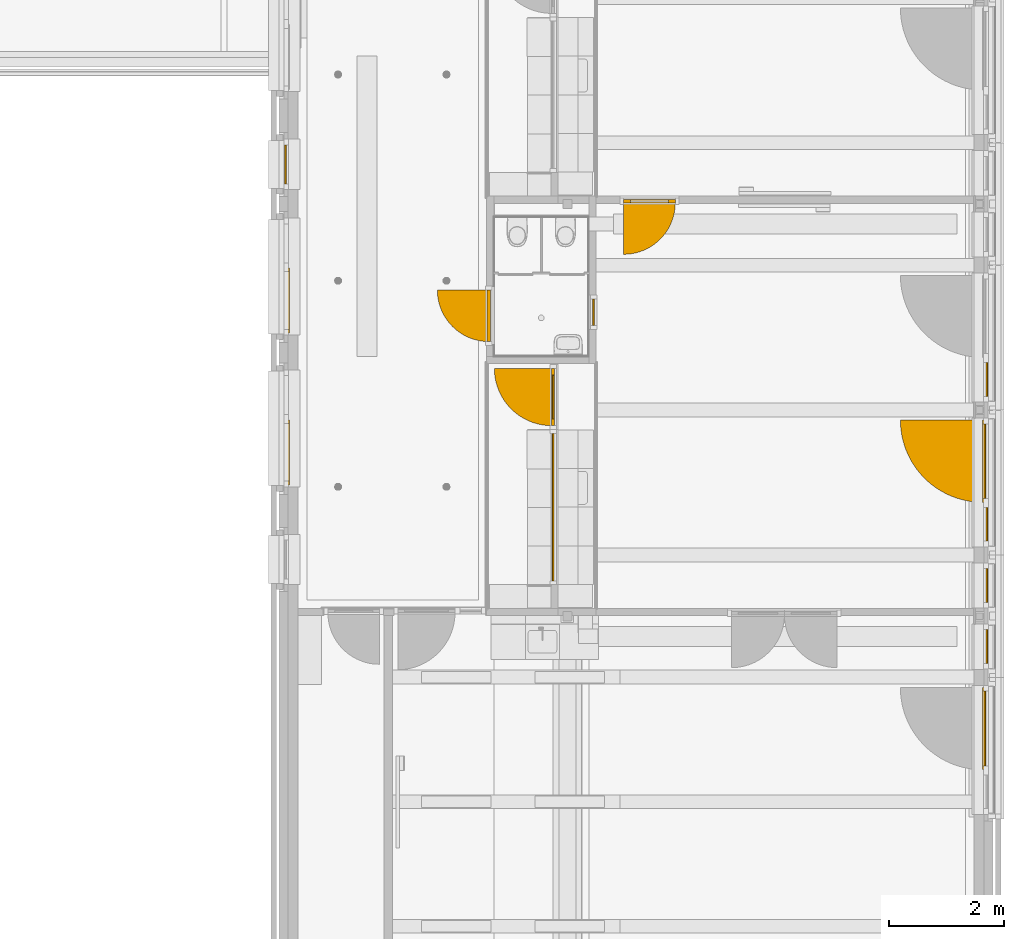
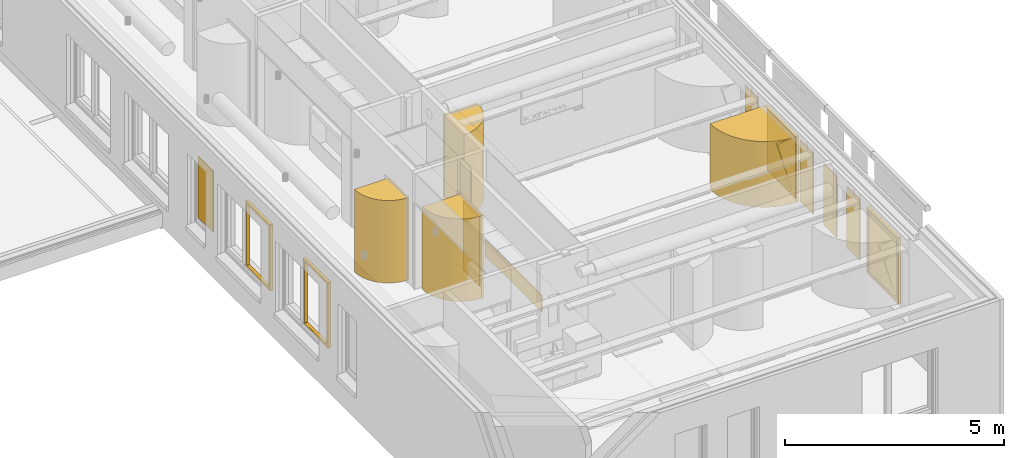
# One storey, part 63 of 128: 18 windows, 3 doors, 7 elements without a shape of their own.
"""IFC2X3 building model written with IfcOpenShell, lengths in millimetres."""

from ifc_helpers import new_model, entity, si_unit, converted_unit, derived_unit, direction, frame, frame_2d, origin, origin_2d_with_axis, place, context, subcontext, project, spatial, polyline, circle_curve, parameter, trimmed, segment, composite_curve, rectangle, circle, outline, extrude, source, transform, mapped, material, material_list, type_object, type_shapes, element, aggregate, save


model = new_model("IFC2X3")

# Units and contexts
model_context = context("Model", 3, precision=0.01, world=origin(), true_north=direction((6.123031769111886e-17, 1.0)))
body_context = subcontext(model_context, "Body", "Model", "MODEL_VIEW")
ifc_project = project(units=[si_unit("LENGTHUNIT", "METRE", prefix="MILLI"), si_unit("AREAUNIT", "SQUARE_METRE"), si_unit("VOLUMEUNIT", "CUBIC_METRE"), converted_unit("PLANEANGLEUNIT", "DEGREE", entity("IfcRatioMeasure", 0.017453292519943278), si_unit("PLANEANGLEUNIT", "RADIAN"), dimensions=[0, 0, 0, 0, 0, 0, 0]), si_unit("MASSUNIT", "GRAM", prefix="KILO"), derived_unit("MASSDENSITYUNIT", [(si_unit("MASSUNIT", "GRAM", prefix="KILO"), 1), (si_unit("LENGTHUNIT", "METRE"), -3)]), derived_unit("IONCONCENTRATIONUNIT", [(si_unit("MASSUNIT", "GRAM", prefix="KILO"), 1), (si_unit("LENGTHUNIT", "METRE"), -3)]), derived_unit("MOMENTOFINERTIAUNIT", [(si_unit("LENGTHUNIT", "METRE"), 4)]), si_unit("TIMEUNIT", "SECOND"), si_unit("FREQUENCYUNIT", "HERTZ"), si_unit("THERMODYNAMICTEMPERATUREUNIT", "DEGREE_CELSIUS"), derived_unit("THERMALTRANSMITTANCEUNIT", [(si_unit("MASSUNIT", "GRAM", prefix="KILO"), 1), (si_unit("THERMODYNAMICTEMPERATUREUNIT", "KELVIN"), -1), (si_unit("TIMEUNIT", "SECOND"), -3)]), derived_unit("THERMALCONDUCTANCEUNIT", [(si_unit("MASSUNIT", "GRAM", prefix="KILO"), 1), (si_unit("THERMODYNAMICTEMPERATUREUNIT", "KELVIN"), -1), (si_unit("TIMEUNIT", "SECOND"), -3), (si_unit("LENGTHUNIT", "METRE"), 1)]), derived_unit("VOLUMETRICFLOWRATEUNIT", [(si_unit("LENGTHUNIT", "METRE"), 3), (si_unit("TIMEUNIT", "SECOND"), -1)]), derived_unit("MASSFLOWRATEUNIT", [(si_unit("MASSUNIT", "GRAM", prefix="KILO"), 1), (si_unit("TIMEUNIT", "SECOND"), -1)]), derived_unit("ROTATIONALFREQUENCYUNIT", [(si_unit("TIMEUNIT", "SECOND"), -1)]), si_unit("ELECTRICCURRENTUNIT", "AMPERE"), si_unit("ELECTRICVOLTAGEUNIT", "VOLT"), si_unit("POWERUNIT", "WATT"), si_unit("FORCEUNIT", "NEWTON", prefix="KILO"), si_unit("ILLUMINANCEUNIT", "LUX"), si_unit("LUMINOUSFLUXUNIT", "LUMEN"), si_unit("LUMINOUSINTENSITYUNIT", "CANDELA"), derived_unit("USERDEFINED", [(si_unit("MASSUNIT", "GRAM", prefix="KILO"), -1), (si_unit("LENGTHUNIT", "METRE"), -2), (si_unit("TIMEUNIT", "SECOND"), 3), (si_unit("LUMINOUSFLUXUNIT", "LUMEN"), 1)]), derived_unit("USERDEFINED", [(si_unit("MASSUNIT", "GRAM", prefix="KILO"), 1), (si_unit("TIMEUNIT", "SECOND"), -3), (si_unit("LENGTHUNIT", "METRE"), 3), (si_unit("ELECTRICCURRENTUNIT", "AMPERE"), -2)]), derived_unit("SOUNDPOWERUNIT", [(si_unit("MASSUNIT", "GRAM", prefix="KILO"), 1), (si_unit("TIMEUNIT", "SECOND"), -3), (si_unit("LENGTHUNIT", "METRE"), 2)]), derived_unit("SOUNDPRESSUREUNIT", [(si_unit("MASSUNIT", "GRAM", prefix="KILO"), 1), (si_unit("LENGTHUNIT", "METRE"), -1), (si_unit("TIMEUNIT", "SECOND"), -2)]), derived_unit("LINEARVELOCITYUNIT", [(si_unit("LENGTHUNIT", "METRE"), 1), (si_unit("TIMEUNIT", "SECOND"), -1)]), si_unit("PRESSUREUNIT", "PASCAL"), derived_unit("USERDEFINED", [(si_unit("MASSUNIT", "GRAM", prefix="KILO"), 1), (si_unit("LENGTHUNIT", "METRE"), -2), (si_unit("TIMEUNIT", "SECOND"), -2)]), derived_unit("LINEARFORCEUNIT", [(si_unit("MASSUNIT", "GRAM", prefix="KILO"), 1), (si_unit("TIMEUNIT", "SECOND"), -2)]), derived_unit("PLANARFORCEUNIT", [(si_unit("MASSUNIT", "GRAM", prefix="KILO"), 1), (si_unit("LENGTHUNIT", "METRE"), -1), (si_unit("TIMEUNIT", "SECOND"), -2)]), derived_unit("SPECIFICHEATCAPACITYUNIT", [(si_unit("THERMODYNAMICTEMPERATUREUNIT", "KELVIN"), -1), (si_unit("LENGTHUNIT", "METRE"), 2), (si_unit("TIMEUNIT", "SECOND"), -2)]), derived_unit("HEATINGVALUEUNIT", [(si_unit("LENGTHUNIT", "METRE"), 2), (si_unit("TIMEUNIT", "SECOND"), -2)]), derived_unit("VAPORPERMEABILITYUNIT", [(si_unit("LENGTHUNIT", "METRE"), -1), (si_unit("TIMEUNIT", "SECOND"), 1)]), derived_unit("DYNAMICVISCOSITYUNIT", [(si_unit("MASSUNIT", "GRAM", prefix="KILO"), 1), (si_unit("TIMEUNIT", "SECOND"), -1), (si_unit("LENGTHUNIT", "METRE"), -1)]), derived_unit("THERMALEXPANSIONCOEFFICIENTUNIT", [(si_unit("THERMODYNAMICTEMPERATUREUNIT", "KELVIN"), -1)]), derived_unit("MODULUSOFELASTICITYUNIT", [(si_unit("MASSUNIT", "GRAM", prefix="KILO"), 1), (si_unit("LENGTHUNIT", "METRE"), -1), (si_unit("TIMEUNIT", "SECOND"), -2)]), derived_unit("ISOTHERMALMOISTURECAPACITYUNIT", [(si_unit("LENGTHUNIT", "METRE"), 3), (si_unit("MASSUNIT", "GRAM", prefix="KILO"), -1)]), derived_unit("MOISTUREDIFFUSIVITYUNIT", [(si_unit("TIMEUNIT", "SECOND"), -1), (si_unit("LENGTHUNIT", "METRE"), 2)])], contexts=[model_context])

# Site, building, storey
site_placement = place(None, frame((0.0, 300.0, 0.0)))
site = spatial("IfcSite", under=ifc_project, at=site_placement, Name="<Kadastrale nummers>", CompositionType="ELEMENT")
building_placement = place(site_placement, origin())
building = spatial("IfcBuilding", under=site, at=building_placement, CompositionType="ELEMENT")
storey_placement = place(building_placement, frame((0.0, 0.0, 3560.0000331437)))
storey = spatial("IfcBuildingStorey", under=building, at=storey_placement, Name="01 eerste verdieping", CompositionType="ELEMENT", Elevation=3560.0000331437)

# Curtain wall, door
curtain_wall_type_1 = type_object("IfcCurtainWallType", Name="Curtain Wall:Merk H01", PredefinedType="NOTDEFINED")
curtain_wall_1_placement = place(storey_placement, frame((0.0, 0.0, -3560.0000331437)))
curtain_wall_1 = element("IfcCurtainWall", 1, at=curtain_wall_1_placement, inside=storey, type_object=curtain_wall_type_1, Name="Curtain Wall:Merk H01", ObjectType="Curtain Wall:Merk H01")
ifc_material_1 = material(Name="ISR_Kunststof_wit")
ifc_material_2 = material(Name="ISR_Mass_Glazing")
ifc_material_list = material_list([ifc_material_1, ifc_material_2])
door_style_1 = type_object("IfcDoorStyle", Name="31_DO_Rondgat_deur:dichte_deur", ConstructionType="NOTDEFINED", OperationType="NOTDEFINED", ParameterTakesPrecedence=False, Sizeable=False, material=ifc_material_list)
shared_shape_1 = source(origin(), body_context, "Body", "SweptSolid", [
    extrude(outline(polyline([(-450.0, -1151.5000000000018), (450.0, -1151.5000000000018), (450.0, 1151.4999999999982), (-450.0, 1151.5000000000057), (-450.0, -1151.5000000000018)]), holes=[composite_curve([segment(trimmed(circle_curve(frame_2d((0.0, -448.5000000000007), x_axis=(1.0, 0.0)), 200.0), [parameter(179.99999999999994)], [parameter(359.9999999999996)], True, "PARAMETER"), False, "CONTINUOUS"), segment(trimmed(circle_curve(frame_2d((0.0, -448.5000000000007), x_axis=(1.0, 0.0)), 200.0), [parameter(4.0711099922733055e-13)], [parameter(179.99999999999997)], True, "PARAMETER"), False, "CONTINUOUS")], self_intersect=False)]), frame((0.0, 30.0, 1151.5000000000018), z_axis=(0.0, 1.0, 0.0), x_axis=(1.0, 0.0, 0.0)), (0.0, 0.0, 1.0), 26.999999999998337),
    extrude(outline(polyline([(-450.0, -1151.500000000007), (450.0, -1151.500000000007), (450.0, 1151.499999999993), (-450.0, 1151.5000000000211), (-450.0, -1151.500000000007)]), holes=[composite_curve([segment(trimmed(circle_curve(frame_2d((0.0, -448.49999999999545), x_axis=(1.0, 0.0)), 200.0), [parameter(179.99999999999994)], [parameter(359.9999999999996)], True, "PARAMETER"), False, "CONTINUOUS"), segment(trimmed(circle_curve(frame_2d((0.0, -448.49999999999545), x_axis=(1.0, 0.0)), 200.0), [parameter(4.0711099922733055e-13)], [parameter(179.99999999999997)], True, "PARAMETER"), False, "CONTINUOUS")], self_intersect=False)]), frame((0.0, 57.0, 1151.500000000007), z_axis=(0.0, 1.0, 0.0), x_axis=(1.0, 0.0, 0.0)), (0.0, 0.0, 1.0), 26.999999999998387),
    extrude(circle(Radius=200.0, at=frame_2d((0.0, -2.707167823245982e-13), x_axis=(1.0, 0.0))), frame((0.0, 41.319307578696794, 1600.0), z_axis=(0.0, 1.0, 0.0), x_axis=(-1.0, 0.0, 0.0)), (0.0, 0.0, 1.0), 25.1297239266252),
])
type_shapes(door_style_1, [shared_shape_1])
door_1_placement = place(curtain_wall_1_placement, frame((40084.0, 14545.997246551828, 3670.00003501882), z_axis=(0.0, 0.0, 1.0), x_axis=(0.0, 1.0, 0.0)))
door_1 = element("IfcDoor", 2, at=door_1_placement, type_object=door_style_1, material=ifc_material_list, Name="31_DO_Rondgat_deur:dichte_deur", ObjectType="31_DO_Rondgat_deur:dichte_deur", OverallHeight=2303.000000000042, OverallWidth=900.0000000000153, context=body_context, shape_type="MappedRepresentation", body=[
    mapped(shared_shape_1, transform((0.0, 0.0, 0.0), scale=1.0)),
])
aggregate(curtain_wall_1, [door_1])

# Windows
ifc_material_3 = material(Name="Clearance Zones")
window_style_1 = type_object("IfcWindowStyle", Name="BU deur links:BU deur links", ConstructionType="NOTDEFINED", OperationType="NOTDEFINED", ParameterTakesPrecedence=False, Sizeable=False, material=ifc_material_3)
shared_shape_2 = source(origin(), body_context, "Body", "SweptSolid", [
    extrude(outline(composite_curve([segment(polyline([(-600.0, -300.0), (300.0, -300.0)]), True, "CONTINUOUS"), segment(polyline([(300.0, -300.0), (300.0, 600.0)]), True, "CONTINUOUS"), segment(trimmed(circle_curve(frame_2d((300.0, -300.0), x_axis=(1.0, 0.0)), 900.0000000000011), [parameter(90.00000000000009)], [parameter(179.99999999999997)], True, "PARAMETER"), True, "CONTINUOUS")], self_intersect=False)), frame((-150.0, -327.0, -20.0), z_axis=(0.0, 0.0, 1.0), x_axis=(-1.0, 0.0, 0.0)), (0.0, 0.0, 1.0), 2303.0000000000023),
])
type_shapes(window_style_1, [shared_shape_2])
window_1_placement = place(storey_placement, frame((40056.75000000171, 14545.997246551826, 130.00000187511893), z_axis=(0.0, 0.0, 1.0), x_axis=(0.0, -1.0, 0.0)))
element("IfcWindow", 3, at=window_1_placement, inside=storey, type_object=window_style_1, material=ifc_material_3, Name="BU deur links:BU deur links", ObjectType="BU deur links:BU deur links", OverallHeight=1183.999999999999, OverallWidth=900.0000000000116, context=body_context, shape_type="MappedRepresentation", body=[
    mapped(shared_shape_2, transform((0.0, 0.0, 0.0), scale=1.0)),
])
window_2_placement = place(storey_placement, frame((42834.50000000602, 16546.998623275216, 130.0000018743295)))
element("IfcWindow", 4, at=window_2_placement, inside=storey, type_object=window_style_1, material=ifc_material_3, Name="BU deur links:BU deur links", ObjectType="BU deur links:BU deur links", OverallHeight=1183.999999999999, OverallWidth=900.0000000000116, context=body_context, shape_type="MappedRepresentation", body=[
    mapped(shared_shape_2, transform((0.0, 0.0, 0.0), scale=1.0)),
])
ifc_material_4 = material(Name="glas_enscape")
window_style_2 = type_object("IfcWindowStyle", Name="WI_subvak1:glas 4", ConstructionType="NOTDEFINED", OperationType="NOTDEFINED", ParameterTakesPrecedence=False, Sizeable=False, material=ifc_material_4)
shared_shape_3 = source(origin(), body_context, "Body", "SweptSolid", [
    extrude(rectangle(XDim=24.00000000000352, YDim=2576.000000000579, at=origin_2d_with_axis()), frame((0.0, 0.0, 0.0), z_axis=(0.0, 0.0, 1.0), x_axis=(0.0, -1.0, 0.0)), (0.0, 0.0, 1.0), 465.9999999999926),
])
type_shapes(window_style_2, [shared_shape_3])
window_3_placement = place(storey_placement, frame((41152.0, 11205.997246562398, 1357.0), z_axis=(0.0, 0.0, 1.0), x_axis=(0.0, 1.0, 0.0)))
element("IfcWindow", 5, at=window_3_placement, inside=storey, type_object=window_style_2, material=ifc_material_4, Name="WI_subvak1:glas 4", ObjectType="WI_subvak1:glas 4", OverallHeight=609.928649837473, OverallWidth=2576.0000000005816, context=body_context, shape_type="MappedRepresentation", body=[
    mapped(shared_shape_3, transform((0.0, 0.0, 0.0), scale=1.0)),
])

# Curtain wall, door
curtain_wall_type_2 = type_object("IfcCurtainWallType", Name="Curtain Wall:Merk H09", PredefinedType="NOTDEFINED")
curtain_wall_2_placement = place(storey_placement, frame((0.0, 0.0, -3560.0000331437)))
curtain_wall_2 = element("IfcCurtainWall", 6, at=curtain_wall_2_placement, inside=storey, type_object=curtain_wall_type_2, Name="Curtain Wall:Merk H09", ObjectType="Curtain Wall:Merk H09")
ifc_material_5 = material(Name="ISR_HPL Kleur hout")
door_style_2 = type_object("IfcDoorStyle", Name="31_DO_deur_met_stapeldorpel:deur_met_stapeldorpel", ConstructionType="NOTDEFINED", OperationType="NOTDEFINED", ParameterTakesPrecedence=False, Sizeable=False, material=ifc_material_5)
shared_shape_4 = source(origin(), body_context, "Body", "SweptSolid", [
    extrude(outline(polyline([(-500.0, -1151.4999999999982), (500.0, -1151.4999999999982), (500.0, 1151.4999999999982), (-500.0, 1151.4999999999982), (-500.0, -1151.4999999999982)]), holes=[polyline([(-380.0, 911.499999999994), (380.0, 911.4999999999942), (380.0, -1031.4999999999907), (-380.0, -1031.499999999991), (-380.0, 911.499999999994)])]), frame((0.0, 57.0, 1151.5000000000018), z_axis=(0.0, 1.0, 0.0), x_axis=(1.0, 0.0, 0.0)), (0.0, 0.0, 1.0), 26.999999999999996),
    extrude(outline(polyline([(-500.0, -1151.4999999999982), (500.0, -1151.4999999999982), (500.0, 1151.4999999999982), (-500.0, 1151.4999999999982), (-500.0, -1151.4999999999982)]), holes=[polyline([(-380.0, 911.4999999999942), (380.0, 911.4999999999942), (380.0, -1031.4999999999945), (-380.0, -1031.4999999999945), (-380.0, 911.4999999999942)])]), frame((0.0, 30.0, 1151.5000000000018), z_axis=(0.0, 1.0, 0.0), x_axis=(1.0, 0.0, 0.0)), (0.0, 0.0, 1.0), 26.99999999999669),
])
type_shapes(door_style_2, [shared_shape_4])
door_2_placement = place(curtain_wall_2_placement, frame((41209.0, 13127.997246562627, 3670.00003501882), z_axis=(0.0, 0.0, 1.0), x_axis=(0.0, 1.0, 0.0)))
door_2 = element("IfcDoor", 7, at=door_2_placement, type_object=door_style_2, material=ifc_material_5, Name="31_DO_deur_met_stapeldorpel:deur_met_stapeldorpel", ObjectType="31_DO_deur_met_stapeldorpel:deur_met_stapeldorpel", OverallHeight=2303.0000000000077, OverallWidth=1000.0000000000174, context=body_context, shape_type="MappedRepresentation", body=[
    mapped(shared_shape_4, transform((0.0, 0.0, 0.0), scale=1.0)),
])
aggregate(curtain_wall_2, [door_2])

# Window
window_style_3 = type_object("IfcWindowStyle", Name="WI_subvak1:glas 4", ConstructionType="NOTDEFINED", OperationType="NOTDEFINED", ParameterTakesPrecedence=False, Sizeable=False, material=ifc_material_4)
shared_shape_5 = source(origin(), body_context, "Body", "SweptSolid", [
    extrude(rectangle(XDim=466.0000000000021, YDim=24.000000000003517, at=origin_2d_with_axis()), origin(), (0.0, 0.0, 1.0), 1055.9999999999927),
])
type_shapes(window_style_3, [shared_shape_5])
window_4_placement = place(storey_placement, frame((41858.0, 14609.99862327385, 1357.0), z_axis=(0.0, 0.0, 1.0), x_axis=(0.0, 1.0, 0.0)))
element("IfcWindow", 8, at=window_4_placement, inside=storey, type_object=window_style_3, material=ifc_material_4, Name="WI_subvak1:glas 4", ObjectType="WI_subvak1:glas 4", OverallHeight=609.9286498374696, OverallWidth=466.00000000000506, context=body_context, shape_type="MappedRepresentation", body=[
    mapped(shared_shape_5, transform((0.0, 0.0, 0.0), scale=1.0)),
])

# Curtain wall, door
curtain_wall_type_3 = type_object("IfcCurtainWallType", Name="Curtain Wall:Merk H16", PredefinedType="NOTDEFINED")
curtain_wall_3_placement = place(storey_placement, frame((0.0, 0.0, -3560.0000331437)))
curtain_wall_3 = element("IfcCurtainWall", 9, at=curtain_wall_3_placement, inside=storey, type_object=curtain_wall_type_3, Name="Curtain Wall:Merk H16", ObjectType="Curtain Wall:Merk H16")
ifc_material_6 = material(Name="HPL F7853 ocean gray")
door_style_3 = type_object("IfcDoorStyle", Name="31_DO_deur_met_stapeldorpel:deur_met_stapeldorpel", ConstructionType="NOTDEFINED", OperationType="NOTDEFINED", ParameterTakesPrecedence=False, Sizeable=False, material=ifc_material_6)
shared_shape_6 = source(origin(), body_context, "Body", "SweptSolid", [
    extrude(outline(polyline([(-450.0, -1151.4999999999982), (450.0, -1151.4999999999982), (450.0, 1151.4999999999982), (-450.0, 1151.4999999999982), (-450.0, -1151.4999999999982)]), holes=[polyline([(-330.0, 911.499999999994), (330.0, 911.4999999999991), (330.0, -1031.4999999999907), (-330.0, -1031.499999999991), (-330.0, 911.499999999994)])]), frame((0.0, 57.0, 1151.5000000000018), z_axis=(0.0, 1.0, 0.0), x_axis=(1.0, 0.0, 0.0)), (0.0, 0.0, 1.0), 26.999999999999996),
    extrude(outline(polyline([(-450.0, -1151.4999999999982), (450.0, -1151.4999999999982), (450.0, 1151.4999999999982), (-450.0, 1151.4999999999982), (-450.0, -1151.4999999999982)]), holes=[polyline([(-330.0, 911.4999999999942), (330.0, 911.4999999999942), (330.0, -1031.4999999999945), (-330.0, -1031.4999999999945), (-330.0, 911.4999999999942)])]), frame((0.0, 30.0, 1151.5000000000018), z_axis=(0.0, 1.0, 0.0), x_axis=(1.0, 0.0, 0.0)), (0.0, 0.0, 1.0), 26.99999999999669),
])
type_shapes(door_style_3, [shared_shape_6])
door_3_placement = place(curtain_wall_3_placement, frame((42834.50000000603, 16603.998623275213, 3670.0000350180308), z_axis=(0.0, 0.0, 1.0), x_axis=(-1.0, 0.0, 0.0)))
door_3 = element("IfcDoor", 10, at=door_3_placement, type_object=door_style_3, material=ifc_material_6, Name="31_DO_deur_met_stapeldorpel:deur_met_stapeldorpel", ObjectType="31_DO_deur_met_stapeldorpel:deur_met_stapeldorpel", OverallHeight=2303.0000000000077, OverallWidth=900.0000000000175, context=body_context, shape_type="MappedRepresentation", body=[
    mapped(shared_shape_6, transform((0.0, 0.0, 0.0), scale=1.0)),
])
aggregate(curtain_wall_3, [door_3])

# Windows
window_style_4 = type_object("IfcWindowStyle", Name="WI_subvak1:glas 2", ConstructionType="NOTDEFINED", OperationType="NOTDEFINED", ParameterTakesPrecedence=False, Sizeable=False, material=ifc_material_4)
shared_shape_7 = source(origin(), body_context, "Body", "SweptSolid", [
    extrude(rectangle(XDim=24.000000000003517, YDim=759.9999999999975, at=frame_2d((0.0, -2.842170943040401e-14), x_axis=(1.0, 0.0))), frame((0.0, 0.0, 0.0), z_axis=(0.0, 0.0, 1.0), x_axis=(0.0, -1.0, 0.0)), (0.0, 0.0, 1.0), 1942.999999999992),
])
type_shapes(window_style_4, [shared_shape_7])
window_5_placement = place(storey_placement, frame((41152.0, 13127.997246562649, 350.00000187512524), z_axis=(0.0, 0.0, 1.0), x_axis=(0.0, 1.0, 0.0)))
element("IfcWindow", 11, at=window_5_placement, inside=storey, type_object=window_style_4, material=ifc_material_4, Name="WI_subvak1:glas 2", ObjectType="WI_subvak1:glas 2", OverallHeight=609.9286498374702, OverallWidth=760.0000000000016, context=body_context, shape_type="MappedRepresentation", body=[
    mapped(shared_shape_7, transform((0.0, 0.0, 0.0), scale=1.0)),
])
window_style_5 = type_object("IfcWindowStyle", Name="BU deur links:BU deur links", ConstructionType="NOTDEFINED", OperationType="NOTDEFINED", ParameterTakesPrecedence=False, Sizeable=False, material=ifc_material_3)
shared_shape_8 = source(origin(), body_context, "Body", "SweptSolid", [
    extrude(outline(composite_curve([segment(polyline([(-666.6666666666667, -333.33333333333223), (333.3333333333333, -333.33333333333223)]), True, "CONTINUOUS"), segment(polyline([(333.3333333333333, -333.33333333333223), (333.33333333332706, 666.6666666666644)]), True, "CONTINUOUS"), segment(trimmed(circle_curve(frame_2d((333.3333333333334, -333.33333333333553), x_axis=(1.0, 0.0)), 1000.0000000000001), [parameter(90.00000000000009)], [parameter(179.99999999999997)], True, "PARAMETER"), True, "CONTINUOUS")], self_intersect=False)), frame((-166.66666666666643, -360.3333333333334, -20.0), z_axis=(0.0, 0.0, 1.0), x_axis=(-1.0, 0.0, 0.0)), (0.0, 0.0, 1.0), 2303.0000000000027),
])
type_shapes(window_style_5, [shared_shape_8])
window_6_placement = place(storey_placement, frame((41152.0, 13127.997246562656, 130.00000187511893), z_axis=(0.0, 0.0, 1.0), x_axis=(0.0, -1.0, 0.0)))
element("IfcWindow", 12, at=window_6_placement, inside=storey, type_object=window_style_5, material=ifc_material_3, Name="BU deur links:BU deur links", ObjectType="BU deur links:BU deur links", OverallHeight=1284.0000000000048, OverallWidth=1000.0000000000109, context=body_context, shape_type="MappedRepresentation", body=[
    mapped(shared_shape_8, transform((0.0, 0.0, 0.0), scale=1.0)),
])

# Curtain wall, window
curtain_wall_type_4 = type_object("IfcCurtainWallType", Name="Curtain Wall:K_22", PredefinedType="NOTDEFINED")
curtain_wall_4_placement = place(storey_placement, frame((0.0, 0.0, -3560.0000331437)))
curtain_wall_4 = element("IfcCurtainWall", 13, at=curtain_wall_4_placement, inside=storey, type_object=curtain_wall_type_4, Name="Curtain Wall:K_22", ObjectType="Curtain Wall:K_22")
ifc_material_7 = material(Name="ISR_Aluminium")
window_style_6 = type_object("IfcWindowStyle", Name="31_WI_raam_1:GEALAN KUBUS RAAM", ConstructionType="NOTDEFINED", OperationType="NOTDEFINED", ParameterTakesPrecedence=False, Sizeable=False, material=ifc_material_7)
shared_shape_9 = source(origin(), body_context, "Body", "SweptSolid", [
    extrude(outline(polyline([(-717.0, -918.9999824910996), (717.0, -918.9999824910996), (717.0, 918.9999824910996), (-717.0, 918.9999824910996), (-717.0, -918.9999824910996)]), holes=[polyline([(-653.0, 854.9999824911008), (653.0, 854.9999824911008), (653.0, -854.9999824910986), (-653.0, -854.9999824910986), (-653.0, 854.9999824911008)])]), frame((0.0, 63.0, 854.9999824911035), z_axis=(0.0, -1.0, 0.0), x_axis=(-1.0, 0.0, 0.0)), (0.0, 0.0, 1.0), 40.50000000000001),
    extrude(outline(polyline([(-717.0, -918.9999824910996), (717.0, -918.9999824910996), (717.0, 918.9999824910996), (-717.0, 918.9999824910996), (-717.0, -918.9999824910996)]), holes=[polyline([(-653.0, 854.9999824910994), (653.0, 854.9999824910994), (653.0, -854.9999824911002), (-653.0, -854.9999824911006), (-653.0, 854.9999824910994)])]), frame((0.0, 22.499999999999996, 854.9999824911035), z_axis=(0.0, -1.0, 0.0), x_axis=(-1.0, 0.0, 0.0)), (0.0, 0.0, 1.0), 40.5),
])
type_shapes(window_style_6, [shared_shape_9])
window_7_placement = place(curtain_wall_4_placement, frame((48668.0, 12007.0, 4580.0000331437), z_axis=(0.0, 0.0, 1.0), x_axis=(0.0, -1.0, 0.0)))
window_7 = element("IfcWindow", 14, at=window_7_placement, type_object=window_style_6, material=ifc_material_7, Name="31_WI_raam_1:GEALAN KUBUS RAAM", ObjectType="31_WI_raam_1:GEALAN KUBUS RAAM", OverallHeight=1853.9999649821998, OverallWidth=1434.0000000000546, context=body_context, shape_type="MappedRepresentation", body=[
    mapped(shared_shape_9, transform((0.0, 0.0, 0.0), scale=1.0)),
])
aggregate(curtain_wall_4, [window_7])

curtain_wall_5_placement = place(storey_placement, frame((0.0, 0.0, -3560.0000331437)))
curtain_wall_5 = element("IfcCurtainWall", 15, at=curtain_wall_5_placement, inside=storey, type_object=curtain_wall_type_4, Name="Curtain Wall:K_22", ObjectType="Curtain Wall:K_22")
window_8_placement = place(curtain_wall_5_placement, frame((48668.0, 7337.0, 4580.0000331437), z_axis=(0.0, 0.0, 1.0), x_axis=(0.0, -1.0, 0.0)))
window_8 = element("IfcWindow", 16, at=window_8_placement, type_object=window_style_6, material=ifc_material_7, Name="31_WI_raam_1:GEALAN KUBUS RAAM", ObjectType="31_WI_raam_1:GEALAN KUBUS RAAM", OverallHeight=1853.9999649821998, OverallWidth=1434.0000000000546, context=body_context, shape_type="MappedRepresentation", body=[
    mapped(shared_shape_9, transform((0.0, 0.0, 0.0), scale=1.0)),
])
aggregate(curtain_wall_5, [window_8])

curtain_wall_type_5 = type_object("IfcCurtainWallType", Name="Curtain Wall:K_24", PredefinedType="NOTDEFINED")
curtain_wall_6_placement = place(storey_placement, frame((0.0, 0.0, -3560.0000331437)))
curtain_wall_6 = element("IfcCurtainWall", 17, at=curtain_wall_6_placement, inside=storey, type_object=curtain_wall_type_5, Name="Curtain Wall:K_24", ObjectType="Curtain Wall:K_24")
window_style_7 = type_object("IfcWindowStyle", Name="31_WI_raam_1:GEALAN KUBUS RAAM", ConstructionType="NOTDEFINED", OperationType="NOTDEFINED", ParameterTakesPrecedence=False, Sizeable=False, material=ifc_material_7)
shared_shape_10 = source(origin(), body_context, "Body", "SweptSolid", [
    extrude(outline(polyline([(-567.0, -919.0), (567.0, -919.0), (567.0, 919.0), (-567.0, 919.0), (-567.0, -919.0)]), holes=[polyline([(-503.0, 855.0), (503.0, 855.0), (503.0, -855.0), (-503.0, -855.0), (-503.0, 855.0)])]), frame((0.0, 63.0, 855.0), z_axis=(0.0, -1.0, 0.0), x_axis=(-1.0, 0.0, 0.0)), (0.0, 0.0, 1.0), 40.50000000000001),
    extrude(outline(polyline([(-567.0, -919.0), (567.0, -919.0), (567.0, 919.0), (-567.0, 919.0), (-567.0, -919.0)]), holes=[polyline([(-503.0, 855.0), (503.0, 855.0), (503.0, -855.0), (-503.0, -855.0), (-503.0, 855.0)])]), frame((0.0, 22.499999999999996, 855.0), z_axis=(0.0, -1.0, 0.0), x_axis=(-1.0, 0.0, 0.0)), (0.0, 0.0, 1.0), 40.5),
])
type_shapes(window_style_7, [shared_shape_10])
window_9_placement = place(curtain_wall_6_placement, frame((36531.998623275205, 12163.0, 4580.0000331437), z_axis=(0.0, 0.0, 1.0), x_axis=(0.0, 1.0, 0.0)))
window_9 = element("IfcWindow", 18, at=window_9_placement, type_object=window_style_7, material=ifc_material_7, Name="31_WI_raam_1:GEALAN KUBUS RAAM", ObjectType="31_WI_raam_1:GEALAN KUBUS RAAM", OverallHeight=1854.0000000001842, OverallWidth=1134.0000000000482, context=body_context, shape_type="MappedRepresentation", body=[
    mapped(shared_shape_10, transform((0.0, 0.0, 0.0), scale=1.0)),
])
aggregate(curtain_wall_6, [window_9])

curtain_wall_7_placement = place(storey_placement, frame((0.0, 0.0, -3560.0000331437)))
curtain_wall_7 = element("IfcCurtainWall", 19, at=curtain_wall_7_placement, inside=storey, type_object=curtain_wall_type_5, Name="Curtain Wall:K_24", ObjectType="Curtain Wall:K_24")
window_10_placement = place(curtain_wall_7_placement, frame((36531.99862327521, 14813.0, 4580.0000331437), z_axis=(0.0, 0.0, 1.0), x_axis=(0.0, 1.0, 0.0)))
window_10 = element("IfcWindow", 20, at=window_10_placement, type_object=window_style_7, material=ifc_material_7, Name="31_WI_raam_1:GEALAN KUBUS RAAM", ObjectType="31_WI_raam_1:GEALAN KUBUS RAAM", OverallHeight=1854.0000000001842, OverallWidth=1134.0000000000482, context=body_context, shape_type="MappedRepresentation", body=[
    mapped(shared_shape_10, transform((0.0, 0.0, 0.0), scale=1.0)),
])
aggregate(curtain_wall_7, [window_10])

# Windows
window_style_8 = type_object("IfcWindowStyle", Name="WI_subvak1:glas 4", ConstructionType="NOTDEFINED", OperationType="NOTDEFINED", ParameterTakesPrecedence=False, Sizeable=False, material=ifc_material_4)
shared_shape_11 = source(origin(), body_context, "Body", "SweptSolid", [
    extrude(rectangle(XDim=680.000000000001, YDim=24.00000000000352, at=origin_2d_with_axis()), origin(), (0.0, 0.0, 1.0), 1710.0000000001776),
])
type_shapes(window_style_8, [shared_shape_11])
window_11_placement = place(storey_placement, frame((36475.0, 17190.0, 1020.0), z_axis=(0.0, 0.0, 1.0), x_axis=(0.0, -1.0, 0.0)))
element("IfcWindow", 21, at=window_11_placement, inside=storey, type_object=window_style_8, material=ifc_material_4, Name="WI_subvak1:glas 4", ObjectType="WI_subvak1:glas 4", OverallHeight=609.9286498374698, OverallWidth=680.0000000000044, context=body_context, shape_type="MappedRepresentation", body=[
    mapped(shared_shape_11, transform((0.0, 0.0, 0.0), scale=1.0)),
])
window_style_9 = type_object("IfcWindowStyle", Name="WI_subvak1:glas 4", ConstructionType="NOTDEFINED", OperationType="NOTDEFINED", ParameterTakesPrecedence=False, Sizeable=False, material=ifc_material_4)
shared_shape_12 = source(origin(), body_context, "Body", "SweptSolid", [
    extrude(rectangle(XDim=590.000000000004, YDim=24.00000000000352, at=frame_2d((0.0, -1.7763568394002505e-15), x_axis=(1.0, 0.0))), origin(), (0.0, 0.0, 1.0), 1709.9999649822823),
])
type_shapes(window_style_9, [shared_shape_12])
for number, where, z_axis, x_axis, name in (
    (22, (48725.0, 9835.0, 1020.0), (0.0, 0.0, 1.0), (0.0, 1.0, 0.0), "WI_subvak1:glas 4"),
    (23, (48725.0, 8773.0, 1020.0), (0.0, 0.0, 1.0), (0.0, 1.0, 0.0), "WI_subvak1:glas 4"),
    (24, (48725.0, 13435.0, 1020.0), (0.0, 0.0, 1.0), (0.0, 1.0, 0.0), "WI_subvak1:glas 4"),
    (25, (48725.0, 10905.0, 1020.0), (0.0, 0.0, 1.0), (0.0, 1.0, 0.0), "WI_subvak1:glas 4"),
):
    element("IfcWindow", number, at=place(storey_placement, frame(where, z_axis=z_axis, x_axis=x_axis)), inside=storey, type_object=window_style_9, material=ifc_material_4, Name=name, ObjectType="WI_subvak1:glas 4", OverallHeight=609.9286498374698, OverallWidth=590.0000000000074, context=body_context, shape_type="MappedRepresentation", body=[
        mapped(shared_shape_12, transform((0.0, 0.0, 0.0), scale=1.0)),
    ])
window_style_10 = type_object("IfcWindowStyle", Name="BI draai-val rechts:BI draai-val rechts", ConstructionType="NOTDEFINED", OperationType="NOTDEFINED", ParameterTakesPrecedence=False, Sizeable=False, material=ifc_material_3)
shared_shape_13 = source(origin(), body_context, "Body", "SweptSolid", [
    extrude(outline(composite_curve([segment(trimmed(circle_curve(frame_2d((1204.4571999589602, 158.5697986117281), x_axis=(1.0, 0.0)), 1837.999964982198), [parameter(180.00000000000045)], [parameter(195.00000000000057)], True, "PARAMETER"), True, "CONTINUOUS"), segment(polyline([(-570.914434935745, -317.1395972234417), (1204.4571999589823, 158.56979861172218)]), True, "CONTINUOUS"), segment(polyline([(1204.4571999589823, 158.56979861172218), (-633.5427650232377, 158.56979861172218)]), True, "CONTINUOUS")], self_intersect=False)), frame((-717.0, -199.06979861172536, 1184.4571999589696), z_axis=(1.0, 0.0, 0.0), x_axis=(0.0, 0.0, -1.0)), (0.0, 0.0, 1.0), 1434.0000000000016),
    extrude(outline(composite_curve([segment(polyline([(-956.0, -478.0), (478.0, -478.0)]), True, "CONTINUOUS"), segment(polyline([(478.0, -478.0), (478.0, 956.0)]), True, "CONTINUOUS"), segment(trimmed(circle_curve(frame_2d((478.0, -478.0), x_axis=(-1.0, 0.0)), 1434.000000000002), [parameter(270.0000000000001)], [parameter(0.0)], True, "PARAMETER"), True, "CONTINUOUS")], self_intersect=False)), frame((-239.0, -518.5000000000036, -20.0), z_axis=(0.0, 0.0, 1.0), x_axis=(-1.0, 0.0, 0.0)), (0.0, 0.0, 1.0), 1837.999964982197),
])
type_shapes(window_style_10, [shared_shape_13])
window_12_placement = place(storey_placement, frame((48690.49999999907, 12007.0, 976.0), z_axis=(0.0, 0.0, 1.0), x_axis=(0.0, -1.0, 0.0)))
element("IfcWindow", 26, at=window_12_placement, inside=storey, type_object=window_style_10, material=ifc_material_3, Name="BI draai-val rechts:BI draai-val rechts", ObjectType="BI draai-val rechts:BI draai-val rechts", OverallHeight=1515.0000000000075, OverallWidth=1434.0000000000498, context=body_context, shape_type="MappedRepresentation", body=[
    mapped(shared_shape_13, transform((0.0, 0.0, 0.0), scale=1.0)),
])
window_style_11 = type_object("IfcWindowStyle", Name="WI_subvak:glas 2", ConstructionType="NOTDEFINED", OperationType="NOTDEFINED", ParameterTakesPrecedence=False, Sizeable=False, material=ifc_material_4)
shared_shape_14 = source(origin(), body_context, "Body", "SweptSolid", [
    extrude(rectangle(XDim=1306.000000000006, YDim=24.00000000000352, at=frame_2d((0.0, -1.7763568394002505e-15), x_axis=(1.0, 0.0))), origin(), (0.0, 0.0, 1.0), 1709.9999649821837),
])
type_shapes(window_style_11, [shared_shape_14])
for number, where, z_axis, x_axis, name in (
    (27, (48690.49999999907, 12007.0, 1020.0), (0.0, 0.0, 1.0), (0.0, 1.0, 0.0), "WI_subvak:glas 2"),
    (28, (48690.49999999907, 7337.0, 1020.0), (0.0, 0.0, 1.0), (0.0, 1.0, 0.0), "WI_subvak:glas 2"),
):
    element("IfcWindow", number, at=place(storey_placement, frame(where, z_axis=z_axis, x_axis=x_axis)), inside=storey, type_object=window_style_11, material=ifc_material_4, Name=name, ObjectType="WI_subvak:glas 2", OverallHeight=609.928649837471, OverallWidth=1306.0000000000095, context=body_context, shape_type="MappedRepresentation", body=[
        mapped(shared_shape_14, transform((0.0, 0.0, 0.0), scale=1.0)),
    ])

save(model, "model.ifc")
